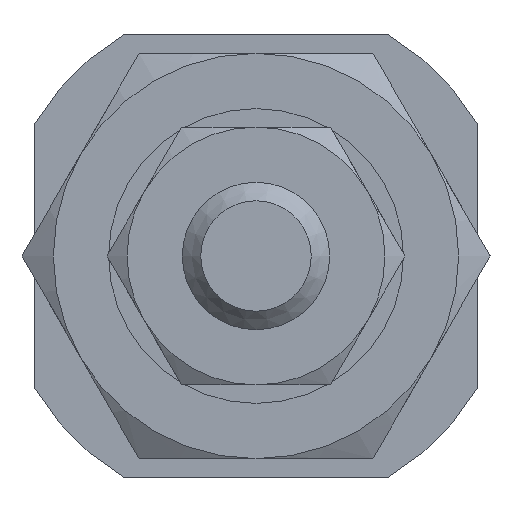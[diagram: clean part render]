
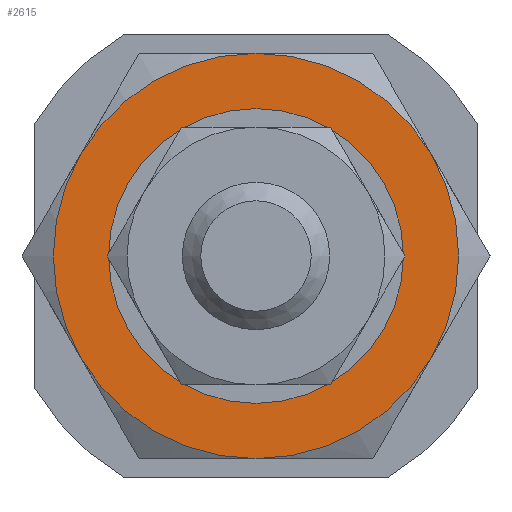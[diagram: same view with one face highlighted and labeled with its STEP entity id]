
A CAD part, left-side view. The second image highlights one B-rep face of the part: STEP entity #2615.
In plain terms, the highlighted planar face has unit normal (-1, 0, 0).
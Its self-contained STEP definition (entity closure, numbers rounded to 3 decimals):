
#844=CARTESIAN_POINT('',(-65.899,4.763,-2.75));
#845=VERTEX_POINT('',#844);
#861=CARTESIAN_POINT('',(-65.899,4.763,2.75));
#862=VERTEX_POINT('',#861);
#863=CARTESIAN_POINT('',(-65.899,0.,0.0));
#864=DIRECTION('',(-1.0,0.0,0.0));
#865=DIRECTION('',(0.0,-1.0,0.0));
#866=AXIS2_PLACEMENT_3D('',#863,#864,#865);
#867=CIRCLE('',#866,5.5);
#868=EDGE_CURVE('',#862,#845,#867,.T.);
#893=CARTESIAN_POINT('',(-65.899,0.,5.5));
#894=VERTEX_POINT('',#893);
#921=CARTESIAN_POINT('',(-65.899,0.,0.0));
#922=DIRECTION('',(-1.0,0.0,0.0));
#923=DIRECTION('',(0.0,-1.0,0.0));
#924=AXIS2_PLACEMENT_3D('',#921,#922,#923);
#925=CIRCLE('',#924,5.5);
#926=EDGE_CURVE('',#894,#862,#925,.T.);
#936=CARTESIAN_POINT('',(-65.899,0.,-5.5));
#937=VERTEX_POINT('',#936);
#953=CARTESIAN_POINT('',(-65.899,0.,0.0));
#954=DIRECTION('',(-1.0,0.0,0.0));
#955=DIRECTION('',(0.0,-1.0,0.0));
#956=AXIS2_PLACEMENT_3D('',#953,#954,#955);
#957=CIRCLE('',#956,5.5);
#958=EDGE_CURVE('',#845,#937,#957,.T.);
#983=CARTESIAN_POINT('',(-65.899,-4.763,2.75));
#984=VERTEX_POINT('',#983);
#1011=CARTESIAN_POINT('',(-65.899,0.,0.0));
#1012=DIRECTION('',(-1.0,0.0,0.0));
#1013=DIRECTION('',(0.0,-1.0,0.0));
#1014=AXIS2_PLACEMENT_3D('',#1011,#1012,#1013);
#1015=CIRCLE('',#1014,5.5);
#1016=EDGE_CURVE('',#984,#894,#1015,.T.);
#1026=CARTESIAN_POINT('',(-65.899,-4.763,-2.75));
#1027=VERTEX_POINT('',#1026);
#1043=CARTESIAN_POINT('',(-65.899,0.,0.0));
#1044=DIRECTION('',(-1.0,0.0,0.0));
#1045=DIRECTION('',(0.0,-1.0,0.0));
#1046=AXIS2_PLACEMENT_3D('',#1043,#1044,#1045);
#1047=CIRCLE('',#1046,5.5);
#1048=EDGE_CURVE('',#937,#1027,#1047,.T.);
#1086=CARTESIAN_POINT('',(-65.899,0.,0.0));
#1087=DIRECTION('',(-1.0,0.0,0.0));
#1088=DIRECTION('',(0.0,-1.0,0.0));
#1089=AXIS2_PLACEMENT_3D('',#1086,#1087,#1088);
#1090=CIRCLE('',#1089,5.5);
#1091=EDGE_CURVE('',#1027,#984,#1090,.T.);
#2591=CARTESIAN_POINT('',(-65.899,5.75,0.0));
#2592=DIRECTION('',(-1.0,0.0,0.0));
#2593=DIRECTION('',(0.0,0.0,1.0));
#2594=AXIS2_PLACEMENT_3D('',#2591,#2592,#2593);
#2595=PLANE('',#2594);
#2596=ORIENTED_EDGE('',*,*,#868,.T.);
#2597=ORIENTED_EDGE('',*,*,#958,.T.);
#2598=ORIENTED_EDGE('',*,*,#1048,.T.);
#2599=ORIENTED_EDGE('',*,*,#1091,.T.);
#2600=ORIENTED_EDGE('',*,*,#1016,.T.);
#2601=ORIENTED_EDGE('',*,*,#926,.T.);
#2602=EDGE_LOOP('',(#2596,#2597,#2598,#2599,#2600,#2601));
#2603=FACE_OUTER_BOUND('',#2602,.T.);
#2604=CARTESIAN_POINT('',(-65.899,4.,0.0));
#2605=VERTEX_POINT('',#2604);
#2606=CARTESIAN_POINT('',(-65.899,0.,0.0));
#2607=DIRECTION('',(-1.0,0.0,0.0));
#2608=DIRECTION('',(0.0,1.0,0.0));
#2609=AXIS2_PLACEMENT_3D('',#2606,#2607,#2608);
#2610=CIRCLE('',#2609,4.);
#2611=EDGE_CURVE('',#2605,#2605,#2610,.T.);
#2612=ORIENTED_EDGE('',*,*,#2611,.F.);
#2613=EDGE_LOOP('',(#2612));
#2614=FACE_BOUND('',#2613,.T.);
#2615=ADVANCED_FACE('',(#2603,#2614),#2595,.T.);
